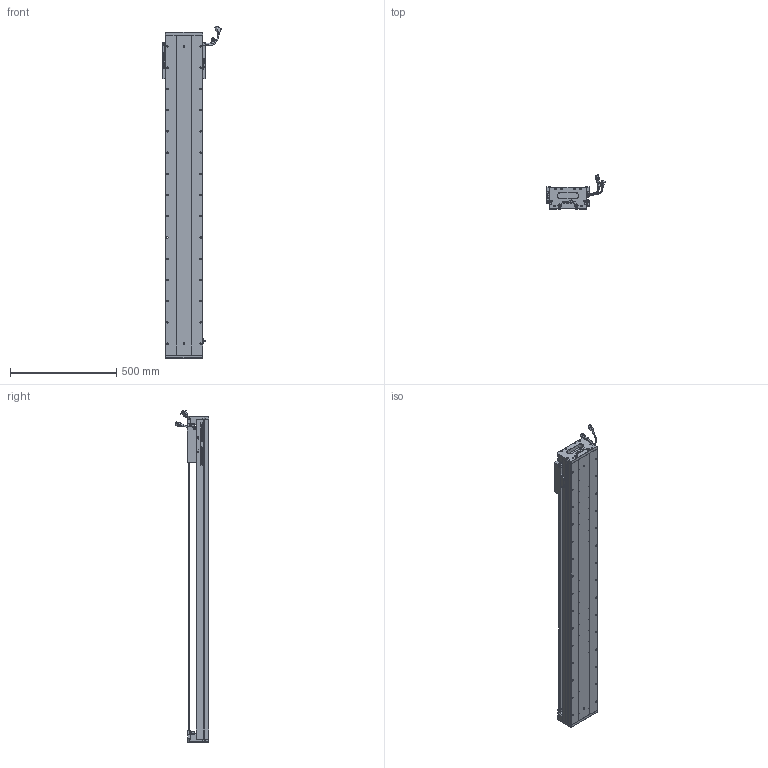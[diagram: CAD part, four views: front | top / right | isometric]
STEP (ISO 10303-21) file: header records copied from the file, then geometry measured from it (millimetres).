
FILE_DESCRIPTION (( 'STEP AP203' ), '1' );
FILE_NAME ('Z2-RY170D-1-L500-B-K.SLDASM_1250.step', '2021-05-17T09:07:52', ( '盈信电脑' ), ( '东莞市道滘镇水果街19号' ), 'SwSTEP 2.0', 'SolidWorks 2016', '' );
FILE_SCHEMA (( 'CONFIG_CONTROL_DESIGN' ));
Length unit declared in the file: millimetre
Products named in the file (36): COVER; SCALE; 080黍杅芛假蚾釱21遴; 140蚥薯蝶輸; SCREW-M1.6-1; SCALE-Part-2; SCREW-M1.6; SCREW-M1.6-3; SEAL-Part-1; SEAL; SCALE-Part-1; Z2-RY170-L500詩湍145mm遵_1250; 170-Z-臏賑輸盄裔(21遴); SCREW-M1.7; Z2-RY170D-1-L500-B-K.SLDASM_1250; HOLDER0; RY170直线电机感应器672光电感应片; 140雄赽晤鎢ん堤盄; PBU_SHEET; LABEL; HARNESS-Part-2; 榋妏寠巭燃_暯_M2_2; Z2-RY170-L500耀郪菁釱_1250; Z2-RY170臏賑輸(21遴); 覜茼ん672; PSLH080_PSLF2; HARNESS-Part-1; HARNESS; Z-RY170詩湍奻揤裔; LABEL-Part-1; COVER-Part-1; SCREW-M1.6-2; Z-RY170詩湍狟揤裔; Z-170詩湍傷裔啣; SHIELDPLATE; SCREW-M1.7-1
Assembly tree (41 placements, depth 4):
  Z2-RY170D-1-L500-B-K.SLDASM_1250
    Z2-RY170-L500耀郪菁釱_1250
    RY170直线电机感应器672光电感应片
    Z2-RY170臏賑輸(21遴)
    覜茼ん672  x3
    PSLH080_PSLF2
      SCALE
        SCALE-Part-1
        SCALE-Part-2
      HARNESS
        HARNESS-Part-1
        HARNESS-Part-2
      LABEL
        LABEL-Part-1
      COVER
        COVER-Part-1
      SEAL
        SEAL-Part-1
      榋妏寠巭燃_暯_M2_2
      SHIELDPLATE
      SCREW-M1.7
      SCREW-M1.7-1
      PBU_SHEET
      SCREW-M1.6
      SCREW-M1.6-1
      SCREW-M1.6-2
      SCREW-M1.6-3
      HOLDER0
    080黍杅芛假蚾釱21遴
    Z2-RY170-L500詩湍145mm遵_1250
    Z-170詩湍傷裔啣  x2
    Z-RY170詩湍奻揤裔  x2
    Z-RY170詩湍狟揤裔  x2
    140蚥薯蝶輸  x2
    170-Z-臏賑輸盄裔(21遴)
    140雄赽晤鎢ん堤盄
Bounding box: 275.33 x 158.11 x 1563.72 mm (x, y, z)
Volume: 8194137.1 mm3; surface area: 2012461.6 mm2
Topology: 36 solids, 36 shells, 3344 faces, 9067 edges, 5689 vertices
Faces by surface type: cylinder 1578, plane 1208, cone 436, torus 69, bspline 53
Entity records: 100703 total; most frequent: CARTESIAN_POINT 26610, ORIENTED_EDGE 14866, DIRECTION 14337, EDGE_CURVE 7433, AXIS2_PLACEMENT_3D 5258, VERTEX_POINT 4807, LINE 3821, VECTOR 3821
